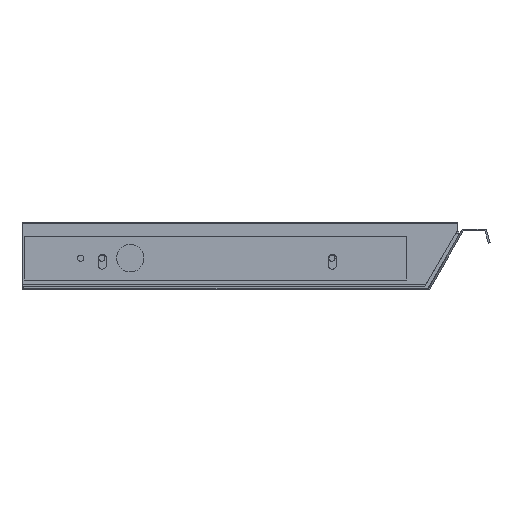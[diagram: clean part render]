
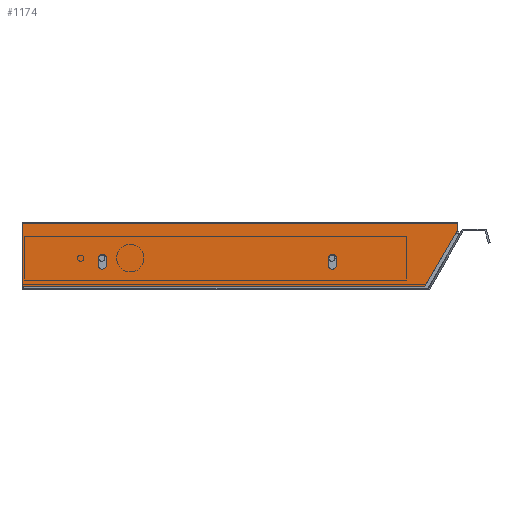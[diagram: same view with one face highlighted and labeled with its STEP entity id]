
A CAD part, left-side view. The second image highlights one B-rep face of the part: STEP entity #1174.
In plain terms, the highlighted planar face has unit normal (-1, 0, 0).
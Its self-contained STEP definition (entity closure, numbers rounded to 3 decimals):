
#1174 = ADVANCED_FACE( '', ( #2362, #2363, #2364 ), #2365, .F. );
#2362 = FACE_BOUND( '', #3570, .T. );
#2363 = FACE_BOUND( '', #3571, .T. );
#2364 = FACE_OUTER_BOUND( '', #3572, .T. );
#2365 = PLANE( '', #3573 );
#3570 = EDGE_LOOP( '', ( #6552, #6553, #6554, #6555 ) );
#3571 = EDGE_LOOP( '', ( #6556, #6557, #6558, #6559 ) );
#3572 = EDGE_LOOP( '', ( #6560, #6561, #6562, #6563, #6564 ) );
#3573 = AXIS2_PLACEMENT_3D( '', #6565, #6566, #6567 );
#6552 = ORIENTED_EDGE( '', *, *, #7943, .F. );
#6553 = ORIENTED_EDGE( '', *, *, #8324, .F. );
#6554 = ORIENTED_EDGE( '', *, *, #7929, .F. );
#6555 = ORIENTED_EDGE( '', *, *, #7549, .F. );
#6556 = ORIENTED_EDGE( '', *, *, #8017, .F. );
#6557 = ORIENTED_EDGE( '', *, *, #7797, .F. );
#6558 = ORIENTED_EDGE( '', *, *, #8127, .F. );
#6559 = ORIENTED_EDGE( '', *, *, #8024, .F. );
#6560 = ORIENTED_EDGE( '', *, *, #8331, .F. );
#6561 = ORIENTED_EDGE( '', *, *, #8260, .T. );
#6562 = ORIENTED_EDGE( '', *, *, #8098, .F. );
#6563 = ORIENTED_EDGE( '', *, *, #7940, .F. );
#6564 = ORIENTED_EDGE( '', *, *, #8313, .T. );
#6565 = CARTESIAN_POINT( '', ( 7.5, 239.5, -36.541 ) );
#6566 = DIRECTION( '', ( 1., 0., 0. ) );
#6567 = DIRECTION( '', ( 0., 0., -1. ) );
#7549 = EDGE_CURVE( '', #9163, #9165, #9166, .F. );
#7797 = EDGE_CURVE( '', #9572, #9574, #9575, .F. );
#7929 = EDGE_CURVE( '', #9165, #9763, #9764, .T. );
#7940 = EDGE_CURVE( '', #9780, #9776, #9782, .T. );
#7943 = EDGE_CURVE( '', #9784, #9163, #9786, .T. );
#8017 = EDGE_CURVE( '', #9574, #9893, #9894, .T. );
#8024 = EDGE_CURVE( '', #9893, #9903, #9904, .F. );
#8098 = EDGE_CURVE( '', #9776, #10003, #10005, .T. );
#8127 = EDGE_CURVE( '', #9903, #9572, #10044, .T. );
#8260 = EDGE_CURVE( '', #10211, #10003, #10213, .T. );
#8313 = EDGE_CURVE( '', #9780, #10272, #10275, .T. );
#8324 = EDGE_CURVE( '', #9763, #9784, #10288, .F. );
#8331 = EDGE_CURVE( '', #10211, #10272, #10295, .T. );
#9163 = VERTEX_POINT( '', #11410 );
#9165 = VERTEX_POINT( '', #11413 );
#9166 = CIRCLE( '', #11414, 2.25 );
#9572 = VERTEX_POINT( '', #11982 );
#9574 = VERTEX_POINT( '', #11985 );
#9575 = CIRCLE( '', #11986, 2.25 );
#9763 = VERTEX_POINT( '', #12254 );
#9764 = LINE( '', #12255, #12256 );
#9776 = VERTEX_POINT( '', #12273 );
#9780 = VERTEX_POINT( '', #12279 );
#9782 = LINE( '', #12282, #12283 );
#9784 = VERTEX_POINT( '', #12285 );
#9786 = LINE( '', #12288, #12289 );
#9893 = VERTEX_POINT( '', #12442 );
#9894 = LINE( '', #12443, #12444 );
#9903 = VERTEX_POINT( '', #12457 );
#9904 = CIRCLE( '', #12458, 2.25 );
#10003 = VERTEX_POINT( '', #12603 );
#10005 = LINE( '', #12606, #12607 );
#10044 = LINE( '', #12663, #12664 );
#10211 = VERTEX_POINT( '', #12900 );
#10213 = LINE( '', #12903, #12904 );
#10272 = VERTEX_POINT( '', #12988 );
#10275 = LINE( '', #12992, #12993 );
#10288 = CIRCLE( '', #13012, 2.25 );
#10295 = LINE( '', #13021, #13022 );
#11410 = CARTESIAN_POINT( '', ( 7.5, 196.75, -24.4 ) );
#11413 = CARTESIAN_POINT( '', ( 7.5, 192.25, -24.4 ) );
#11414 = AXIS2_PLACEMENT_3D( '', #13639, #13640, #13641 );
#11982 = CARTESIAN_POINT( '', ( 7.5, 62.25, -20.4 ) );
#11985 = CARTESIAN_POINT( '', ( 7.5, 66.75, -20.4 ) );
#11986 = AXIS2_PLACEMENT_3D( '', #13919, #13920, #13921 );
#12254 = CARTESIAN_POINT( '', ( 7.5, 192.25, -20.4 ) );
#12255 = CARTESIAN_POINT( '', ( 7.5, 192.25, -36.541 ) );
#12256 = VECTOR( '', #14053, 1000. );
#12273 = CARTESIAN_POINT( '', ( 7.5, 239.5, -1. ) );
#12279 = CARTESIAN_POINT( '', ( 7.5, 239.5, -36.541 ) );
#12282 = CARTESIAN_POINT( '', ( 7.5, 239.5, -36.541 ) );
#12283 = VECTOR( '', #14062, 1000. );
#12285 = CARTESIAN_POINT( '', ( 7.5, 196.75, -20.4 ) );
#12288 = CARTESIAN_POINT( '', ( 7.5, 196.75, -36.541 ) );
#12289 = VECTOR( '', #14064, 1000. );
#12442 = CARTESIAN_POINT( '', ( 7.5, 66.75, -24.4 ) );
#12443 = CARTESIAN_POINT( '', ( 7.5, 66.75, -36.541 ) );
#12444 = VECTOR( '', #14150, 1000. );
#12457 = CARTESIAN_POINT( '', ( 7.5, 62.25, -24.4 ) );
#12458 = AXIS2_PLACEMENT_3D( '', #14155, #14156, #14157 );
#12603 = CARTESIAN_POINT( '', ( 7.5, -6.5, -1. ) );
#12606 = CARTESIAN_POINT( '', ( 7.5, 239.5, -1. ) );
#12607 = VECTOR( '', #14220, 1000. );
#12663 = CARTESIAN_POINT( '', ( 7.5, 62.25, -36.541 ) );
#12664 = VECTOR( '', #14241, 1000. );
#12900 = CARTESIAN_POINT( '', ( 7.5, -6.5, -4. ) );
#12903 = CARTESIAN_POINT( '', ( 7.5, -6.5, -36.541 ) );
#12904 = VECTOR( '', #14354, 1000. );
#12988 = CARTESIAN_POINT( '', ( 7.5, 12.288, -36.541 ) );
#12992 = CARTESIAN_POINT( '', ( 7.5, 239.5, -36.541 ) );
#12993 = VECTOR( '', #14399, 1000. );
#13012 = AXIS2_PLACEMENT_3D( '', #14406, #14407, #14408 );
#13021 = CARTESIAN_POINT( '', ( 7.5, 69.091, -134.927 ) );
#13022 = VECTOR( '', #14411, 1000. );
#13639 = CARTESIAN_POINT( '', ( 7.5, 194.5, -24.4 ) );
#13640 = DIRECTION( '', ( 1., 0., 0. ) );
#13641 = DIRECTION( '', ( 0., 0., -1. ) );
#13919 = CARTESIAN_POINT( '', ( 7.5, 64.5, -20.4 ) );
#13920 = DIRECTION( '', ( 1., 0., 0. ) );
#13921 = DIRECTION( '', ( 0., 0., -1. ) );
#14053 = DIRECTION( '', ( 0., 0., 1. ) );
#14062 = DIRECTION( '', ( 0., 0., 1. ) );
#14064 = DIRECTION( '', ( 0., 0., -1. ) );
#14150 = DIRECTION( '', ( 0., 0., -1. ) );
#14155 = CARTESIAN_POINT( '', ( 7.5, 64.5, -24.4 ) );
#14156 = DIRECTION( '', ( 1., 0., 0. ) );
#14157 = DIRECTION( '', ( 0., 0., -1. ) );
#14220 = DIRECTION( '', ( 0., -1., 0. ) );
#14241 = DIRECTION( '', ( 0., 0., 1. ) );
#14354 = DIRECTION( '', ( 0., 0., 1. ) );
#14399 = DIRECTION( '', ( 0., -1., 0. ) );
#14406 = CARTESIAN_POINT( '', ( 7.5, 194.5, -20.4 ) );
#14407 = DIRECTION( '', ( 1., 0., 0. ) );
#14408 = DIRECTION( '', ( 0., 0., -1. ) );
#14411 = DIRECTION( '', ( 0., 0.5, -0.866 ) );
